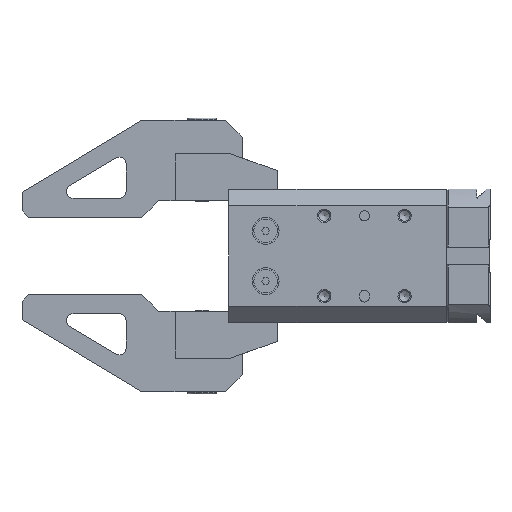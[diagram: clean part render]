
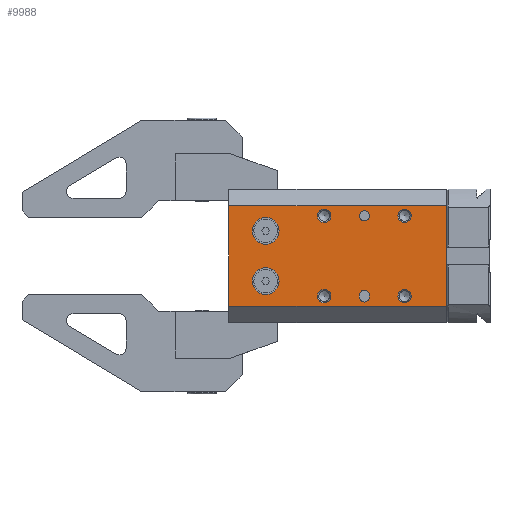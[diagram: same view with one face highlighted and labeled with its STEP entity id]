
A CAD part, left-side view. The second image highlights one B-rep face of the part: STEP entity #9988.
In plain terms, the highlighted planar face has unit normal (-1, 0, 0).
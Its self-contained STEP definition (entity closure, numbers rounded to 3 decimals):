
#215=FACE_BOUND('',#1635,.T.);
#216=FACE_BOUND('',#1636,.T.);
#217=FACE_BOUND('',#1637,.T.);
#218=FACE_BOUND('',#1638,.T.);
#219=FACE_BOUND('',#1639,.T.);
#220=FACE_BOUND('',#1640,.T.);
#221=FACE_BOUND('',#1641,.T.);
#222=FACE_BOUND('',#1642,.T.);
#498=PLANE('',#10732);
#1039=FACE_OUTER_BOUND('',#1634,.T.);
#1634=EDGE_LOOP('',(#8726,#8727,#8728,#8729));
#1635=EDGE_LOOP('',(#8730,#8731,#8732,#8733));
#1636=EDGE_LOOP('',(#8734));
#1637=EDGE_LOOP('',(#8735));
#1638=EDGE_LOOP('',(#8736));
#1639=EDGE_LOOP('',(#8737));
#1640=EDGE_LOOP('',(#8738));
#1641=EDGE_LOOP('',(#8739));
#1642=EDGE_LOOP('',(#8740));
#2166=CIRCLE('',#10700,1.5);
#2168=CIRCLE('',#10704,1.5);
#2170=CIRCLE('',#10708,1.5);
#2174=CIRCLE('',#10729,4.);
#2176=CIRCLE('',#10733,4.);
#2177=CIRCLE('',#10734,2.);
#2178=CIRCLE('',#10735,2.);
#2179=CIRCLE('',#10736,2.);
#2180=CIRCLE('',#10737,2.);
#2941=LINE('',#16964,#3934);
#2946=LINE('',#16978,#3939);
#2988=LINE('',#17083,#3981);
#2989=LINE('',#17085,#3982);
#2990=LINE('',#17087,#3983);
#2991=LINE('',#17088,#3984);
#3934=VECTOR('',#12436,10.);
#3939=VECTOR('',#12449,10.);
#3981=VECTOR('',#12551,10.);
#3982=VECTOR('',#12552,10.);
#3983=VECTOR('',#12553,10.);
#3984=VECTOR('',#12554,10.);
#4929=VERTEX_POINT('',#16962);
#4930=VERTEX_POINT('',#16963);
#4933=VERTEX_POINT('',#16971);
#4935=VERTEX_POINT('',#16977);
#4937=VERTEX_POINT('',#16987);
#4965=VERTEX_POINT('',#17074);
#4967=VERTEX_POINT('',#17081);
#4968=VERTEX_POINT('',#17082);
#4969=VERTEX_POINT('',#17084);
#4970=VERTEX_POINT('',#17086);
#4971=VERTEX_POINT('',#17089);
#4972=VERTEX_POINT('',#17091);
#4973=VERTEX_POINT('',#17093);
#4974=VERTEX_POINT('',#17095);
#4975=VERTEX_POINT('',#17097);
#6217=EDGE_CURVE('',#4929,#4930,#2941,.T.);
#6221=EDGE_CURVE('',#4933,#4929,#2166,.T.);
#6224=EDGE_CURVE('',#4935,#4933,#2946,.T.);
#6227=EDGE_CURVE('',#4930,#4935,#2168,.T.);
#6229=EDGE_CURVE('',#4937,#4937,#2170,.T.);
#6271=EDGE_CURVE('',#4965,#4965,#2174,.T.);
#6274=EDGE_CURVE('',#4967,#4968,#2988,.T.);
#6275=EDGE_CURVE('',#4967,#4969,#2989,.T.);
#6276=EDGE_CURVE('',#4970,#4969,#2990,.T.);
#6277=EDGE_CURVE('',#4968,#4970,#2991,.T.);
#6278=EDGE_CURVE('',#4971,#4971,#2176,.T.);
#6279=EDGE_CURVE('',#4972,#4972,#2177,.T.);
#6280=EDGE_CURVE('',#4973,#4973,#2178,.T.);
#6281=EDGE_CURVE('',#4974,#4974,#2179,.T.);
#6282=EDGE_CURVE('',#4975,#4975,#2180,.T.);
#8726=ORIENTED_EDGE('',*,*,#6274,.F.);
#8727=ORIENTED_EDGE('',*,*,#6275,.T.);
#8728=ORIENTED_EDGE('',*,*,#6276,.F.);
#8729=ORIENTED_EDGE('',*,*,#6277,.F.);
#8730=ORIENTED_EDGE('',*,*,#6217,.T.);
#8731=ORIENTED_EDGE('',*,*,#6227,.T.);
#8732=ORIENTED_EDGE('',*,*,#6224,.T.);
#8733=ORIENTED_EDGE('',*,*,#6221,.T.);
#8734=ORIENTED_EDGE('',*,*,#6229,.T.);
#8735=ORIENTED_EDGE('',*,*,#6278,.T.);
#8736=ORIENTED_EDGE('',*,*,#6279,.T.);
#8737=ORIENTED_EDGE('',*,*,#6280,.T.);
#8738=ORIENTED_EDGE('',*,*,#6281,.T.);
#8739=ORIENTED_EDGE('',*,*,#6282,.T.);
#8740=ORIENTED_EDGE('',*,*,#6271,.T.);
#9988=ADVANCED_FACE('',(#1039,#215,#216,#217,#218,#219,#220,#221,#222),
#498,.T.);
#10700=AXIS2_PLACEMENT_3D('',#16972,#12442,#12443);
#10704=AXIS2_PLACEMENT_3D('',#16983,#12454,#12455);
#10708=AXIS2_PLACEMENT_3D('',#16988,#12462,#12463);
#10729=AXIS2_PLACEMENT_3D('',#17075,#12542,#12543);
#10732=AXIS2_PLACEMENT_3D('',#17080,#12549,#12550);
#10733=AXIS2_PLACEMENT_3D('',#17090,#12555,#12556);
#10734=AXIS2_PLACEMENT_3D('',#17092,#12557,#12558);
#10735=AXIS2_PLACEMENT_3D('',#17094,#12559,#12560);
#10736=AXIS2_PLACEMENT_3D('',#17096,#12561,#12562);
#10737=AXIS2_PLACEMENT_3D('',#17098,#12563,#12564);
#12436=DIRECTION('',(0.,0.,1.));
#12442=DIRECTION('center_axis',(1.,0.,0.));
#12443=DIRECTION('ref_axis',(0.,-1.,0.));
#12449=DIRECTION('',(0.,0.,-1.));
#12454=DIRECTION('center_axis',(1.,0.,0.));
#12455=DIRECTION('ref_axis',(0.,1.,0.));
#12462=DIRECTION('center_axis',(1.,0.,0.));
#12463=DIRECTION('ref_axis',(0.,1.,0.));
#12542=DIRECTION('center_axis',(1.,0.,0.));
#12543=DIRECTION('ref_axis',(0.,0.,1.));
#12549=DIRECTION('center_axis',(-1.,0.,0.));
#12550=DIRECTION('ref_axis',(0.,0.,-1.));
#12551=DIRECTION('',(0.,0.,1.));
#12552=DIRECTION('',(0.,-1.,0.));
#12553=DIRECTION('',(0.,0.,-1.));
#12554=DIRECTION('',(0.,-1.,0.));
#12555=DIRECTION('center_axis',(1.,0.,0.));
#12556=DIRECTION('ref_axis',(0.,0.,1.));
#12557=DIRECTION('center_axis',(1.,0.,0.));
#12558=DIRECTION('ref_axis',(0.,0.,1.));
#12559=DIRECTION('center_axis',(1.,0.,0.));
#12560=DIRECTION('ref_axis',(0.,0.,1.));
#12561=DIRECTION('center_axis',(1.,0.,0.));
#12562=DIRECTION('ref_axis',(0.,0.,1.));
#12563=DIRECTION('center_axis',(1.,0.,0.));
#12564=DIRECTION('ref_axis',(0.,0.,1.));
#16962=CARTESIAN_POINT('',(-20.,26.,-12.25));
#16963=CARTESIAN_POINT('',(-20.,26.,-11.75));
#16964=CARTESIAN_POINT('',(-20.,26.,1.375));
#16971=CARTESIAN_POINT('',(-20.,23.,-12.25));
#16972=CARTESIAN_POINT('Origin',(-20.,24.5,-12.25));
#16977=CARTESIAN_POINT('',(-20.,23.,-11.75));
#16978=CARTESIAN_POINT('',(-20.,23.,1.625));
#16983=CARTESIAN_POINT('Origin',(-20.,24.5,-11.75));
#16987=CARTESIAN_POINT('',(-20.,23.,12.));
#16988=CARTESIAN_POINT('Origin',(-20.,24.5,12.));
#17074=CARTESIAN_POINT('',(-20.,54.,3.5));
#17075=CARTESIAN_POINT('Origin',(-20.,54.,7.5));
#17080=CARTESIAN_POINT('Origin',(-20.,65.,15.));
#17081=CARTESIAN_POINT('',(-20.,65.,-15.));
#17082=CARTESIAN_POINT('',(-20.,65.,15.));
#17083=CARTESIAN_POINT('',(-20.,65.,-15.));
#17084=CARTESIAN_POINT('',(-20.,0.,-15.));
#17085=CARTESIAN_POINT('',(-20.,65.,-15.));
#17086=CARTESIAN_POINT('',(-20.,0.,15.));
#17087=CARTESIAN_POINT('',(-20.,0.,-15.));
#17088=CARTESIAN_POINT('',(-20.,65.,15.));
#17089=CARTESIAN_POINT('',(-20.,54.,-11.5));
#17090=CARTESIAN_POINT('Origin',(-20.,54.,-7.5));
#17091=CARTESIAN_POINT('',(-20.,12.5,10.));
#17092=CARTESIAN_POINT('Origin',(-20.,12.5,12.));
#17093=CARTESIAN_POINT('',(-20.,12.5,-14.));
#17094=CARTESIAN_POINT('Origin',(-20.,12.5,-12.));
#17095=CARTESIAN_POINT('',(-20.,36.5,10.));
#17096=CARTESIAN_POINT('Origin',(-20.,36.5,12.));
#17097=CARTESIAN_POINT('',(-20.,36.5,-14.));
#17098=CARTESIAN_POINT('Origin',(-20.,36.5,-12.));
